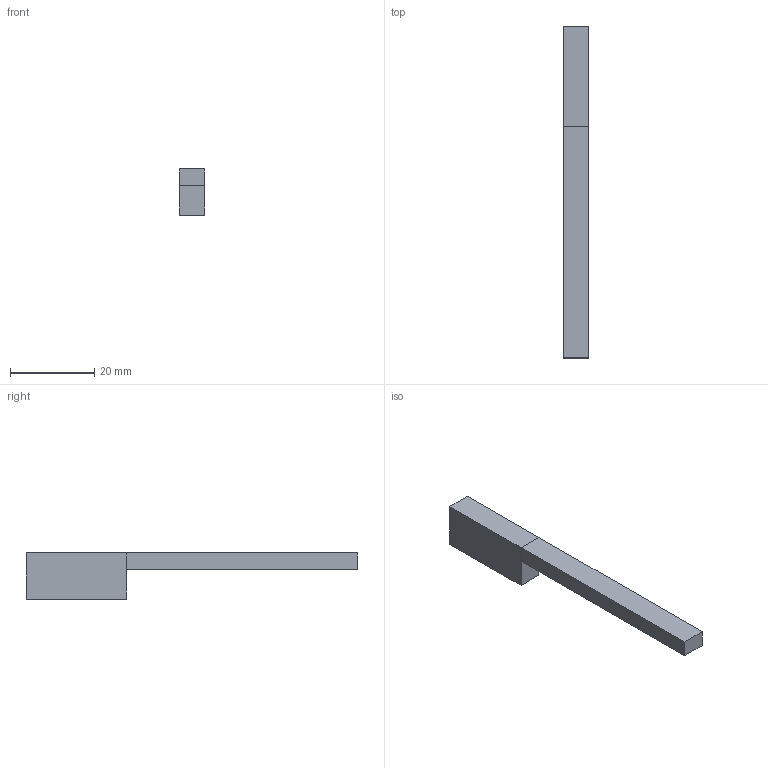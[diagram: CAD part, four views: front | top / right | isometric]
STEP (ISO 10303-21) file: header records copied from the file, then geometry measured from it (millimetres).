
FILE_DESCRIPTION(('Open CASCADE Model'),'2;1');
FILE_NAME('Open CASCADE Shape Model','2026-10-04T01:02:25',('Author'),( 'Open CASCADE'),'Open CASCADE STEP processor 8.0','Open CASCADE 8.0' ,'Unknown');
FILE_SCHEMA(('AUTOMOTIVE_DESIGN { 1 0 10303 214 1 1 1 1 }'));
Length unit declared in the file: millimetre
Products named in the file (1): Open CASCADE STEP translator 8.0 26
Bounding box: 6 x 79 x 11 mm (x, y, z)
Volume: 2904 mm3; surface area: 2048 mm2
Topology: 1 solids, 1 shells, 11 faces, 23 edges, 14 vertices
Faces by surface type: plane 11
Entity records: 594 total; most frequent: CARTESIAN_POINT 95, DIRECTION 93, LINE 69, VECTOR 69, ORIENTED_EDGE 46, PCURVE 46, DEFINITIONAL_REPRESENTATION 46, EDGE_CURVE 23
